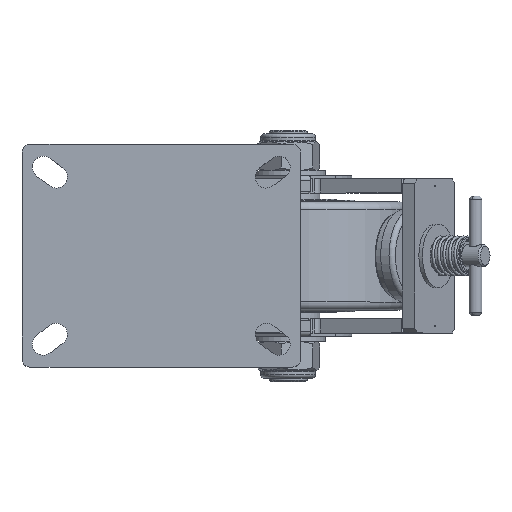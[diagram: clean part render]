
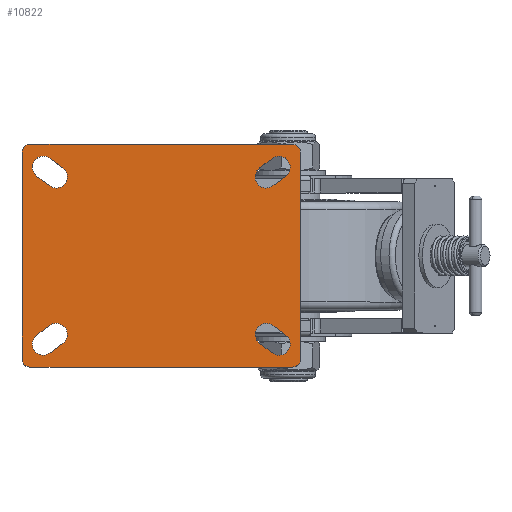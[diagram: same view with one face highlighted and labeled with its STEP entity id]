
A CAD part, top view. The second image highlights one B-rep face of the part: STEP entity #10822.
In plain terms, the highlighted planar face has unit normal (0, 0, 1).
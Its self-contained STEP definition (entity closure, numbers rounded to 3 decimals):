
#10603=CARTESIAN_POINT('',(-70.2,43.9,36.825));
#10604=DIRECTION('',(0.0,0.0,1.0));
#10605=DIRECTION('',(1.0,0.0,0.0));
#10606=AXIS2_PLACEMENT_3D('',#10603,#10604,#10605);
#10607=PLANE('',#10606);
#10608=CARTESIAN_POINT('',(-82.5,-70.,36.825));
#10609=VERTEX_POINT('',#10608);
#10610=CARTESIAN_POINT('',(-87.5,-65.,36.825));
#10611=VERTEX_POINT('',#10610);
#10612=CARTESIAN_POINT('',(-82.5,-65.,36.825));
#10613=DIRECTION('',(0.0,0.0,-1.));
#10614=DIRECTION('',(-0.707,-0.707,0.0));
#10615=AXIS2_PLACEMENT_3D('',#10612,#10613,#10614);
#10616=CIRCLE('',#10615,5.);
#10617=EDGE_CURVE('',#10609,#10611,#10616,.T.);
#10618=ORIENTED_EDGE('',*,*,#10617,.F.);
#10619=CARTESIAN_POINT('',(82.5,-70.,36.825));
#10620=VERTEX_POINT('',#10619);
#10621=CARTESIAN_POINT('',(82.5,-70.,36.825));
#10622=DIRECTION('',(-1.0,0.0,0.0));
#10623=VECTOR('',#10622,165.);
#10624=LINE('',#10621,#10623);
#10625=EDGE_CURVE('',#10620,#10609,#10624,.T.);
#10626=ORIENTED_EDGE('',*,*,#10625,.F.);
#10627=CARTESIAN_POINT('',(87.5,-65.,36.825));
#10628=VERTEX_POINT('',#10627);
#10629=CARTESIAN_POINT('',(82.5,-65.,36.825));
#10630=DIRECTION('',(0.0,0.0,-1.));
#10631=DIRECTION('',(0.707,-0.707,0.0));
#10632=AXIS2_PLACEMENT_3D('',#10629,#10630,#10631);
#10633=CIRCLE('',#10632,5.);
#10634=EDGE_CURVE('',#10628,#10620,#10633,.T.);
#10635=ORIENTED_EDGE('',*,*,#10634,.F.);
#10636=CARTESIAN_POINT('',(87.5,65.,36.825));
#10637=VERTEX_POINT('',#10636);
#10638=CARTESIAN_POINT('',(87.5,65.,36.825));
#10639=DIRECTION('',(0.0,-1.0,0.0));
#10640=VECTOR('',#10639,130.);
#10641=LINE('',#10638,#10640);
#10642=EDGE_CURVE('',#10637,#10628,#10641,.T.);
#10643=ORIENTED_EDGE('',*,*,#10642,.F.);
#10644=CARTESIAN_POINT('',(82.5,70.,36.825));
#10645=VERTEX_POINT('',#10644);
#10646=CARTESIAN_POINT('',(82.5,65.,36.825));
#10647=DIRECTION('',(0.0,0.0,-1.));
#10648=DIRECTION('',(0.707,0.707,0.0));
#10649=AXIS2_PLACEMENT_3D('',#10646,#10647,#10648);
#10650=CIRCLE('',#10649,5.);
#10651=EDGE_CURVE('',#10645,#10637,#10650,.T.);
#10652=ORIENTED_EDGE('',*,*,#10651,.F.);
#10653=CARTESIAN_POINT('',(-82.5,70.,36.825));
#10654=VERTEX_POINT('',#10653);
#10655=CARTESIAN_POINT('',(-82.5,70.,36.825));
#10656=DIRECTION('',(1.0,0.0,0.0));
#10657=VECTOR('',#10656,165.0);
#10658=LINE('',#10655,#10657);
#10659=EDGE_CURVE('',#10654,#10645,#10658,.T.);
#10660=ORIENTED_EDGE('',*,*,#10659,.F.);
#10661=CARTESIAN_POINT('',(-87.5,65.,36.825));
#10662=VERTEX_POINT('',#10661);
#10663=CARTESIAN_POINT('',(-82.5,65.,36.825));
#10664=DIRECTION('',(0.0,0.0,-1.));
#10665=DIRECTION('',(-0.707,0.707,0.0));
#10666=AXIS2_PLACEMENT_3D('',#10663,#10664,#10665);
#10667=CIRCLE('',#10666,5.);
#10668=EDGE_CURVE('',#10662,#10654,#10667,.T.);
#10669=ORIENTED_EDGE('',*,*,#10668,.F.);
#10670=CARTESIAN_POINT('',(-87.5,-65.,36.825));
#10671=DIRECTION('',(0.0,1.0,0.0));
#10672=VECTOR('',#10671,130.0);
#10673=LINE('',#10670,#10672);
#10674=EDGE_CURVE('',#10611,#10662,#10673,.T.);
#10675=ORIENTED_EDGE('',*,*,#10674,.F.);
#10676=EDGE_LOOP('',(#10618,#10626,#10635,#10643,#10652,#10660,#10669,#10675));
#10677=FACE_OUTER_BOUND('',#10676,.T.);
#10678=CARTESIAN_POINT('',(78.2,49.9,36.825));
#10679=VERTEX_POINT('',#10678);
#10680=CARTESIAN_POINT('',(69.8,61.1,36.825));
#10681=VERTEX_POINT('',#10680);
#10682=CARTESIAN_POINT('',(74.,55.5,36.825));
#10683=DIRECTION('',(0.0,0.0,1.0));
#10684=DIRECTION('',(1.0,0.0,0.0));
#10685=AXIS2_PLACEMENT_3D('',#10682,#10683,#10684);
#10686=CIRCLE('',#10685,7.);
#10687=EDGE_CURVE('',#10679,#10681,#10686,.T.);
#10688=ORIENTED_EDGE('',*,*,#10687,.F.);
#10689=CARTESIAN_POINT('',(70.2,43.9,36.825));
#10690=VERTEX_POINT('',#10689);
#10691=CARTESIAN_POINT('',(70.2,43.9,36.825));
#10692=DIRECTION('',(0.8,0.6,0.0));
#10693=VECTOR('',#10692,10.);
#10694=LINE('',#10691,#10693);
#10695=EDGE_CURVE('',#10690,#10679,#10694,.T.);
#10696=ORIENTED_EDGE('',*,*,#10695,.F.);
#10697=CARTESIAN_POINT('',(61.8,55.1,36.825));
#10698=VERTEX_POINT('',#10697);
#10699=CARTESIAN_POINT('',(66.,49.5,36.825));
#10700=DIRECTION('',(0.0,0.0,1.0));
#10701=DIRECTION('',(1.0,0.0,0.0));
#10702=AXIS2_PLACEMENT_3D('',#10699,#10700,#10701);
#10703=CIRCLE('',#10702,7.);
#10704=EDGE_CURVE('',#10698,#10690,#10703,.T.);
#10705=ORIENTED_EDGE('',*,*,#10704,.F.);
#10706=CARTESIAN_POINT('',(69.8,61.1,36.825));
#10707=DIRECTION('',(-0.8,-0.6,0.0));
#10708=VECTOR('',#10707,10.);
#10709=LINE('',#10706,#10708);
#10710=EDGE_CURVE('',#10681,#10698,#10709,.T.);
#10711=ORIENTED_EDGE('',*,*,#10710,.F.);
#10712=EDGE_LOOP('',(#10688,#10696,#10705,#10711));
#10713=FACE_BOUND('',#10712,.T.);
#10714=CARTESIAN_POINT('',(70.2,-43.9,36.825));
#10715=VERTEX_POINT('',#10714);
#10716=CARTESIAN_POINT('',(61.8,-55.1,36.825));
#10717=VERTEX_POINT('',#10716);
#10718=CARTESIAN_POINT('',(66.,-49.5,36.825));
#10719=DIRECTION('',(0.0,0.0,1.0));
#10720=DIRECTION('',(1.0,0.0,0.0));
#10721=AXIS2_PLACEMENT_3D('',#10718,#10719,#10720);
#10722=CIRCLE('',#10721,7.);
#10723=EDGE_CURVE('',#10715,#10717,#10722,.T.);
#10724=ORIENTED_EDGE('',*,*,#10723,.F.);
#10725=CARTESIAN_POINT('',(78.2,-49.9,36.825));
#10726=VERTEX_POINT('',#10725);
#10727=CARTESIAN_POINT('',(78.2,-49.9,36.825));
#10728=DIRECTION('',(-0.8,0.6,0.0));
#10729=VECTOR('',#10728,10.);
#10730=LINE('',#10727,#10729);
#10731=EDGE_CURVE('',#10726,#10715,#10730,.T.);
#10732=ORIENTED_EDGE('',*,*,#10731,.F.);
#10733=CARTESIAN_POINT('',(69.8,-61.1,36.825));
#10734=VERTEX_POINT('',#10733);
#10735=CARTESIAN_POINT('',(74.,-55.5,36.825));
#10736=DIRECTION('',(0.0,0.0,1.0));
#10737=DIRECTION('',(1.0,0.0,0.0));
#10738=AXIS2_PLACEMENT_3D('',#10735,#10736,#10737);
#10739=CIRCLE('',#10738,7.);
#10740=EDGE_CURVE('',#10734,#10726,#10739,.T.);
#10741=ORIENTED_EDGE('',*,*,#10740,.F.);
#10742=CARTESIAN_POINT('',(61.8,-55.1,36.825));
#10743=DIRECTION('',(0.8,-0.6,0.0));
#10744=VECTOR('',#10743,10.0);
#10745=LINE('',#10742,#10744);
#10746=EDGE_CURVE('',#10717,#10734,#10745,.T.);
#10747=ORIENTED_EDGE('',*,*,#10746,.F.);
#10748=EDGE_LOOP('',(#10724,#10732,#10741,#10747));
#10749=FACE_BOUND('',#10748,.T.);
#10750=CARTESIAN_POINT('',(-78.2,-49.9,36.825));
#10751=VERTEX_POINT('',#10750);
#10752=CARTESIAN_POINT('',(-69.8,-61.1,36.825));
#10753=VERTEX_POINT('',#10752);
#10754=CARTESIAN_POINT('',(-74.,-55.5,36.825));
#10755=DIRECTION('',(0.0,0.0,1.0));
#10756=DIRECTION('',(1.0,0.0,0.0));
#10757=AXIS2_PLACEMENT_3D('',#10754,#10755,#10756);
#10758=CIRCLE('',#10757,7.);
#10759=EDGE_CURVE('',#10751,#10753,#10758,.T.);
#10760=ORIENTED_EDGE('',*,*,#10759,.F.);
#10761=CARTESIAN_POINT('',(-70.2,-43.9,36.825));
#10762=VERTEX_POINT('',#10761);
#10763=CARTESIAN_POINT('',(-70.2,-43.9,36.825));
#10764=DIRECTION('',(-0.8,-0.6,0.0));
#10765=VECTOR('',#10764,10.);
#10766=LINE('',#10763,#10765);
#10767=EDGE_CURVE('',#10762,#10751,#10766,.T.);
#10768=ORIENTED_EDGE('',*,*,#10767,.F.);
#10769=CARTESIAN_POINT('',(-61.8,-55.1,36.825));
#10770=VERTEX_POINT('',#10769);
#10771=CARTESIAN_POINT('',(-66.,-49.5,36.825));
#10772=DIRECTION('',(0.0,0.0,1.0));
#10773=DIRECTION('',(1.0,0.0,0.0));
#10774=AXIS2_PLACEMENT_3D('',#10771,#10772,#10773);
#10775=CIRCLE('',#10774,7.);
#10776=EDGE_CURVE('',#10770,#10762,#10775,.T.);
#10777=ORIENTED_EDGE('',*,*,#10776,.F.);
#10778=CARTESIAN_POINT('',(-69.8,-61.1,36.825));
#10779=DIRECTION('',(0.8,0.6,0.0));
#10780=VECTOR('',#10779,10.0);
#10781=LINE('',#10778,#10780);
#10782=EDGE_CURVE('',#10753,#10770,#10781,.T.);
#10783=ORIENTED_EDGE('',*,*,#10782,.F.);
#10784=EDGE_LOOP('',(#10760,#10768,#10777,#10783));
#10785=FACE_BOUND('',#10784,.T.);
#10786=CARTESIAN_POINT('',(-70.2,43.9,36.825));
#10787=VERTEX_POINT('',#10786);
#10788=CARTESIAN_POINT('',(-61.8,55.1,36.825));
#10789=VERTEX_POINT('',#10788);
#10790=CARTESIAN_POINT('',(-66.,49.5,36.825));
#10791=DIRECTION('',(0.0,0.0,1.0));
#10792=DIRECTION('',(1.0,0.0,0.0));
#10793=AXIS2_PLACEMENT_3D('',#10790,#10791,#10792);
#10794=CIRCLE('',#10793,7.);
#10795=EDGE_CURVE('',#10787,#10789,#10794,.T.);
#10796=ORIENTED_EDGE('',*,*,#10795,.F.);
#10797=CARTESIAN_POINT('',(-78.2,49.9,36.825));
#10798=VERTEX_POINT('',#10797);
#10799=CARTESIAN_POINT('',(-78.2,49.9,36.825));
#10800=DIRECTION('',(0.8,-0.6,0.0));
#10801=VECTOR('',#10800,10.);
#10802=LINE('',#10799,#10801);
#10803=EDGE_CURVE('',#10798,#10787,#10802,.T.);
#10804=ORIENTED_EDGE('',*,*,#10803,.F.);
#10805=CARTESIAN_POINT('',(-69.8,61.1,36.825));
#10806=VERTEX_POINT('',#10805);
#10807=CARTESIAN_POINT('',(-74.,55.5,36.825));
#10808=DIRECTION('',(0.0,0.0,1.0));
#10809=DIRECTION('',(1.0,0.0,0.0));
#10810=AXIS2_PLACEMENT_3D('',#10807,#10808,#10809);
#10811=CIRCLE('',#10810,7.);
#10812=EDGE_CURVE('',#10806,#10798,#10811,.T.);
#10813=ORIENTED_EDGE('',*,*,#10812,.F.);
#10814=CARTESIAN_POINT('',(-61.8,55.1,36.825));
#10815=DIRECTION('',(-0.8,0.6,0.0));
#10816=VECTOR('',#10815,10.);
#10817=LINE('',#10814,#10816);
#10818=EDGE_CURVE('',#10789,#10806,#10817,.T.);
#10819=ORIENTED_EDGE('',*,*,#10818,.F.);
#10820=EDGE_LOOP('',(#10796,#10804,#10813,#10819));
#10821=FACE_BOUND('',#10820,.T.);
#10822=ADVANCED_FACE('',(#10677,#10713,#10749,#10785,#10821),#10607,.T.);
